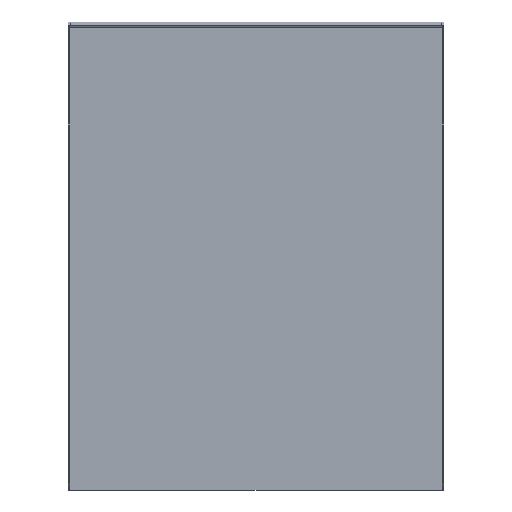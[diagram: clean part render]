
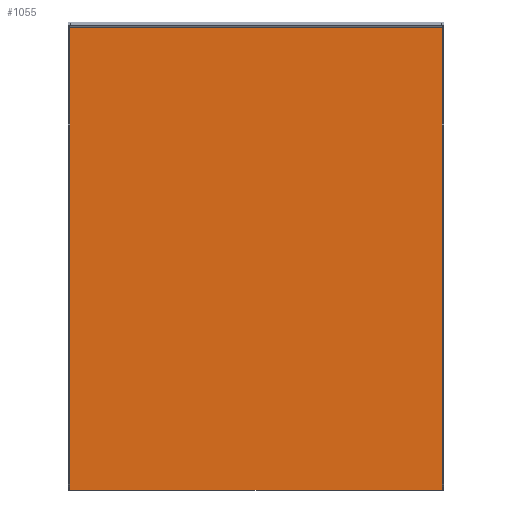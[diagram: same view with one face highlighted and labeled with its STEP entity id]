
A CAD part, front view. The second image highlights one B-rep face of the part: STEP entity #1055.
In plain terms, the highlighted planar face has unit normal (0, -1, 0).
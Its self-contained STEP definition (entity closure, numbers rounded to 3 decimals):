
#65 = VECTOR ( 'NONE', #239, 1000. ) ;
#86 = CARTESIAN_POINT ( 'NONE',  ( 497., 0., 397. ) ) ;
#239 = DIRECTION ( 'NONE',  ( 0., 0., 1. ) ) ;
#268 = ORIENTED_EDGE ( 'NONE', *, *, #567, .F. ) ;
#271 = CARTESIAN_POINT ( 'NONE',  ( -497., 0., -397. ) ) ;
#283 = FACE_OUTER_BOUND ( 'NONE', #309, .T. ) ;
#309 = EDGE_LOOP ( 'NONE', ( #1402, #878, #1170, #268 ) ) ;
#461 = DIRECTION ( 'NONE',  ( 0., 0., -1. ) ) ;
#497 = CARTESIAN_POINT ( 'NONE',  ( 497., 0., 397. ) ) ;
#560 = VERTEX_POINT ( 'NONE', #967 ) ;
#567 = EDGE_CURVE ( 'NONE', #1524, #560, #1598, .T. ) ;
#616 = LINE ( 'NONE', #86, #664 ) ;
#646 = EDGE_CURVE ( 'NONE', #560, #1596, #1065, .T. ) ;
#664 = VECTOR ( 'NONE', #1696, 1000. ) ;
#820 = EDGE_CURVE ( 'NONE', #1596, #1712, #893, .T. ) ;
#834 = DIRECTION ( 'NONE',  ( -1., 0., 0. ) ) ;
#878 = ORIENTED_EDGE ( 'NONE', *, *, #820, .F. ) ;
#893 = LINE ( 'NONE', #1071, #1328 ) ;
#967 = CARTESIAN_POINT ( 'NONE',  ( -497., 0., -397. ) ) ;
#1055 = ADVANCED_FACE ( 'NONE', ( #283 ), #1882, .T. ) ;
#1062 = DIRECTION ( 'NONE',  ( 1., 0., 0. ) ) ;
#1065 = LINE ( 'NONE', #1088, #65 ) ;
#1071 = CARTESIAN_POINT ( 'NONE',  ( -497., 0., 397. ) ) ;
#1088 = CARTESIAN_POINT ( 'NONE',  ( -497., 0., 397. ) ) ;
#1170 = ORIENTED_EDGE ( 'NONE', *, *, #646, .F. ) ;
#1237 = AXIS2_PLACEMENT_3D ( 'NONE', #1293, #1737, #461 ) ;
#1282 = EDGE_CURVE ( 'NONE', #1712, #1524, #616, .T. ) ;
#1293 = CARTESIAN_POINT ( 'NONE',  ( 0., 0., 0. ) ) ;
#1328 = VECTOR ( 'NONE', #1062, 1000. ) ;
#1402 = ORIENTED_EDGE ( 'NONE', *, *, #1282, .F. ) ;
#1427 = CARTESIAN_POINT ( 'NONE',  ( -497., 0., 397. ) ) ;
#1524 = VERTEX_POINT ( 'NONE', #1871 ) ;
#1596 = VERTEX_POINT ( 'NONE', #1427 ) ;
#1598 = LINE ( 'NONE', #271, #1615 ) ;
#1615 = VECTOR ( 'NONE', #834, 1000. ) ;
#1696 = DIRECTION ( 'NONE',  ( 0., 0., -1. ) ) ;
#1712 = VERTEX_POINT ( 'NONE', #497 ) ;
#1737 = DIRECTION ( 'NONE',  ( 0., -1., 0. ) ) ;
#1871 = CARTESIAN_POINT ( 'NONE',  ( 497., 0., -397. ) ) ;
#1882 = PLANE ( 'NONE',  #1237 ) ;
